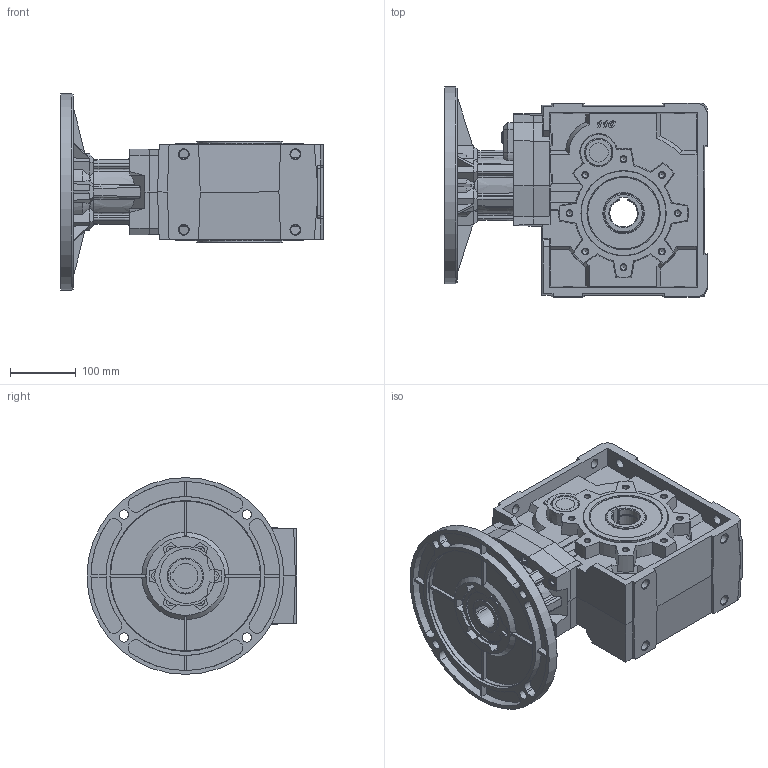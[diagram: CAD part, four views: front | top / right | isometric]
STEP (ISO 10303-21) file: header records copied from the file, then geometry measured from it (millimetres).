
FILE_DESCRIPTION( ( 'Unknown' ), '1' );
FILE_NAME( 'E:/services/configuratordownloads/customers/HYDROMEC/X/download/182E63515FCCED566F7326E3406C37C/STEP/182E63515FCCED566F7326E3406C37C.3d.stp', 'Unknown', ( 'Unknown' ), ( 'Unknown' ), 'PSStep 10.1', 'Unknown', ' ' );
FILE_SCHEMA( ( 'AUTOMOTIVE_DESIGN { 1 0 10303 214 1 1 1 1 }' ) );
Length unit declared in the file: millimetre
Products named in the file (1): 11C8800_NEW
Bounding box: 400 x 320 x 300 mm (x, y, z)
Volume: 10806157.1 mm3; surface area: 754671.3 mm2
Topology: 1 solids, 27 shells, 1245 faces, 3263 edges, 2123 vertices
Faces by surface type: plane 742, cylinder 240, cone 204, torus 35, bspline 24
Full cylindrical faces by diameter (mm): 4.917 x16, 5.6 x8, 6 x10, 6.647 x16, 7 x8, 8.376 x32, 12 x8, 13 x14, 13.5 x1, 14 x4, 14.5 x12, 18 x1, 19 x1, 21 x1, 29 x2, 61 x1, 63 x1, 90 x1, 110 x2, 130 x2, 228.5 x1, 230 x1, 300 x1
Entity records: 48348 total; most frequent: CARTESIAN_POINT 9613, DIRECTION 5788, ORIENTED_EDGE 5654, EDGE_CURVE 2827, AXIS2_PLACEMENT_3D 2039, VERTEX_POINT 2014, LINE 1710, VECTOR 1710
